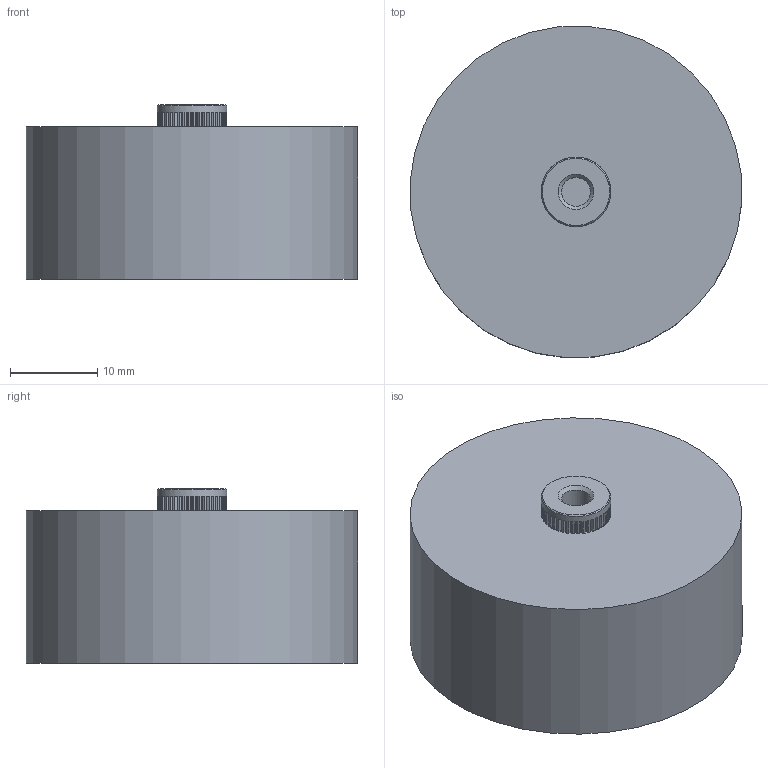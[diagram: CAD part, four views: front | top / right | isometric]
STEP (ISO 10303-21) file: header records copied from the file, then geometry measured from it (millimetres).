
FILE_DESCRIPTION((''),'2;1');
FILE_NAME('I:\Marketing\M6t1\M6T1 - Internal\Drawings\Werk 3\Finished product\Ceramite\Upload for homepage\715\715C###KT###\715C15KTD19.stp','2013-06-10T13:53:35',('sherden'),(''),'Autodesk Inventor 2013','Autodesk Inventor 2013','');
FILE_SCHEMA(('AUTOMOTIVE_DESIGN { 1 2 10303 214 0 1 1 1 }'));
Length unit declared in the file: millimetre
Products named in the file (1): 715C15KTD19
Bounding box: 37.92 x 37.92 x 20 mm (x, y, z)
Volume: 19833 mm3; surface area: 4705.2 mm2
Topology: 1 solids, 41 shells, 573 faces, 1419 edges, 932 vertices
Faces by surface type: plane 486, cylinder 84, cone 3
Full cylindrical faces by diameter (mm): 3.302 x2, 7.95 x1, 38 x1
Entity records: 17304 total; most frequent: CARTESIAN_POINT 2916, ORIENTED_EDGE 2822, DIRECTION 2810, EDGE_CURVE 1411, VECTOR 1160, LINE 1160, VERTEX_POINT 931, AXIS2_PLACEMENT_3D 825
